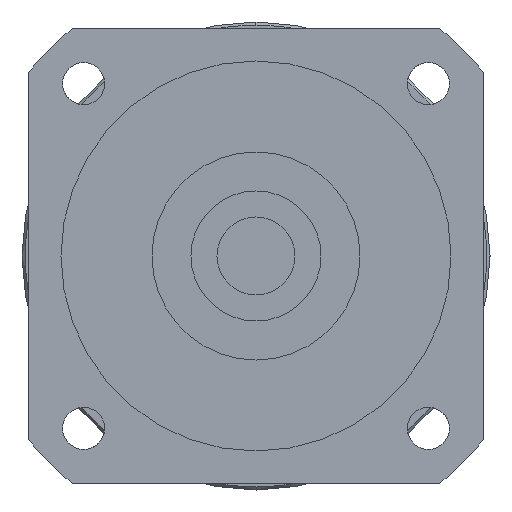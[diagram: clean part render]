
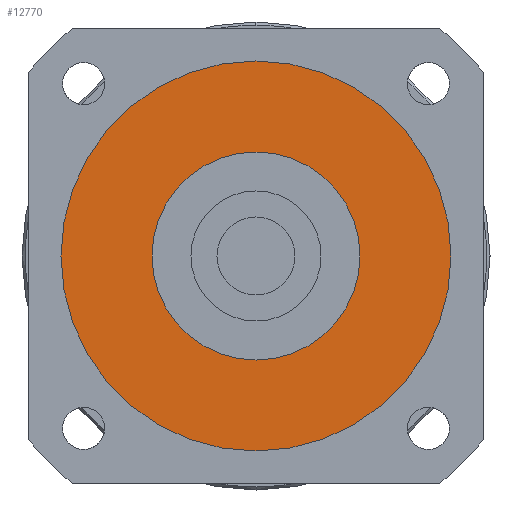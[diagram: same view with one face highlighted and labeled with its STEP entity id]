
A CAD part, left-side view. The second image highlights one B-rep face of the part: STEP entity #12770.
In plain terms, the highlighted planar face has unit normal (-1, 0, 0) as drawn and (0, 0, -1) by its records, which use the part's own axes.
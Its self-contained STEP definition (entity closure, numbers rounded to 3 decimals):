
#12190=CARTESIAN_POINT('',(-16.,0.,-88.));
#12200=VERTEX_POINT('',#12190);
#12250=CARTESIAN_POINT('',(0.,0.,
-88.));
#12260=DIRECTION('',(0.,0.,1.));
#12270=DIRECTION('',(0.,-1.,0.));
#12280=AXIS2_PLACEMENT_3D('',#12250,#12260,#12270);
#12290=CIRCLE('',#12280,16.);
#12300=CARTESIAN_POINT('',(16.,0.,-88.));
#12310=VERTEX_POINT('',#12300);
#12320=EDGE_CURVE('',#12200,#12310,#12290,.T.);
#12520=CARTESIAN_POINT('',(0.,0.,
-88.));
#12530=DIRECTION('',(0.,0.,1.));
#12540=DIRECTION('',(-1.,0.,0.));
#12550=AXIS2_PLACEMENT_3D('',#12520,#12530,#12540);
#12560=PLANE('',#12550);
#12570=CARTESIAN_POINT('',(0.,0.,
-88.));
#12580=DIRECTION('',(0.,0.,1.));
#12590=DIRECTION('',(0.,-1.,0.));
#12600=AXIS2_PLACEMENT_3D('',#12570,#12580,#12590);
#12610=CIRCLE('',#12600,30.);
#12620=CARTESIAN_POINT('',(-30.,0.,-88.));
#12630=VERTEX_POINT('',#12620);
#12640=CARTESIAN_POINT('',(30.,0.,-88.));
#12650=VERTEX_POINT('',#12640);
#12660=EDGE_CURVE('',#12630,#12650,#12610,.T.);
#12670=ORIENTED_EDGE('',*,*,#12660,.F.);
#12680=EDGE_CURVE('',#12650,#12630,#12610,.T.);
#12690=ORIENTED_EDGE('',*,*,#12680,.F.);
#12700=EDGE_LOOP('',(#12690,#12670));
#12710=FACE_OUTER_BOUND('',#12700,.T.);
#12720=ORIENTED_EDGE('',*,*,#12320,.T.);
#12730=EDGE_CURVE('',#12310,#12200,#12290,.T.);
#12740=ORIENTED_EDGE('',*,*,#12730,.T.);
#12750=EDGE_LOOP('',(#12740,#12720));
#12760=FACE_BOUND('',#12750,.T.);
#12770=ADVANCED_FACE('',(#12710,#12760),#12560,.F.);
